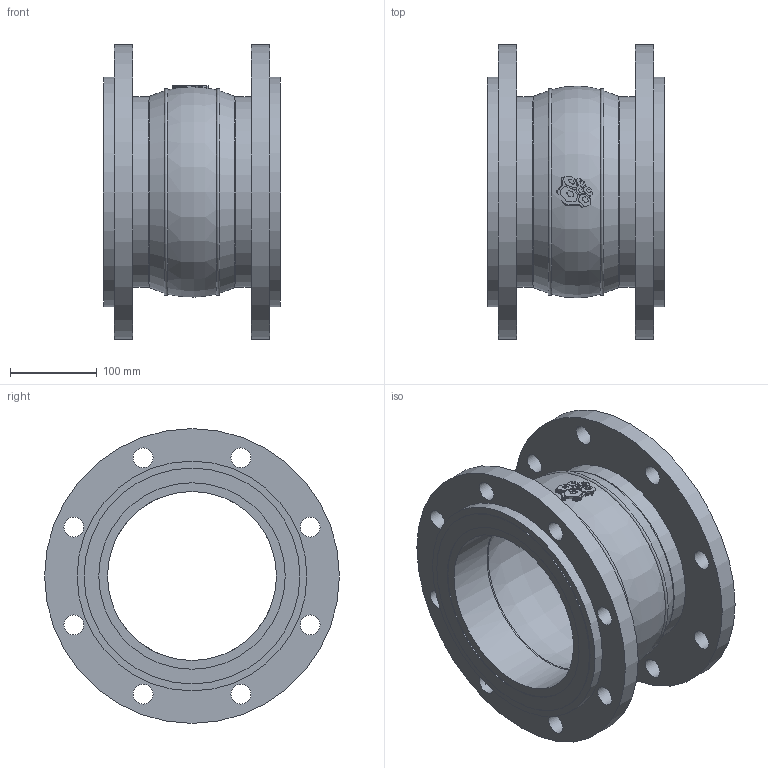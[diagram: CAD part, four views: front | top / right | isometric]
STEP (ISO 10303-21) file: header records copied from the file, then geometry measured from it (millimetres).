
FILE_DESCRIPTION(('STEP AP203'), '1');
FILE_NAME('3D_500-200-EPDM-FF_1', '', ('UNSPECIFIED'), ('UNSPECIFIED'), 'C3D Converter', 'C3D Toolkit', '');
FILE_SCHEMA(('CONFIG_CONTROL_DESIGN'));
Length unit declared in the file: millimetre
Bounding box: 205 x 340 x 340 mm (x, y, z)
Volume: 4290801.7 mm3; surface area: 549570.5 mm2
Topology: 9 solids, 9 shells, 878 faces, 2543 edges, 1691 vertices
Faces by surface type: plane 839, cylinder 28, torus 11
Full cylindrical faces by diameter (mm): 23 x16, 195 x2, 215 x2, 220 x2, 249 x2, 265 x2, 340 x2
Entity records: 35736 total; most frequent: CARTESIAN_POINT 5490, ORIENTED_EDGE 5008, DIRECTION 4319, EDGE_CURVE 2504, LINE 2439, VECTOR 2439, VERTEX_POINT 1691, EDGE_LOOP 971
